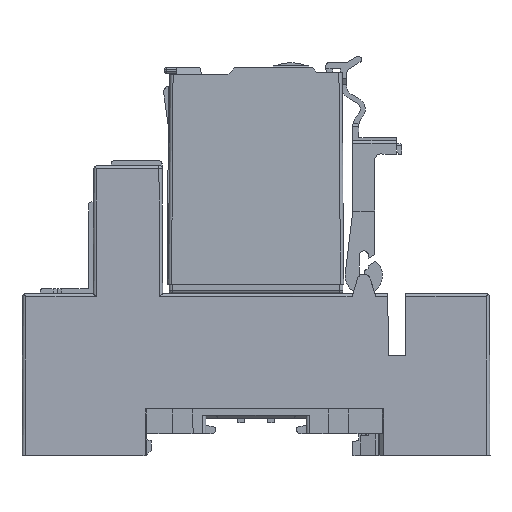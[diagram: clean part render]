
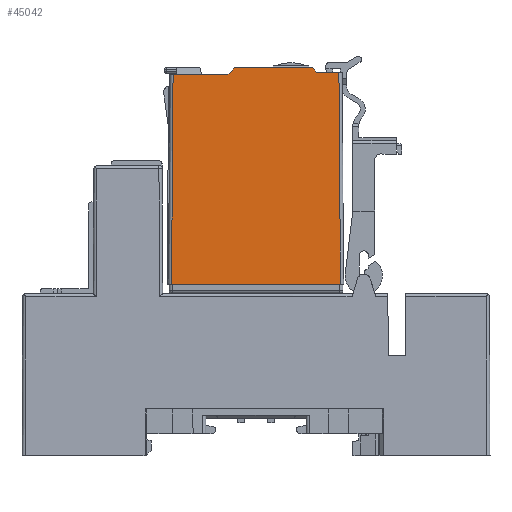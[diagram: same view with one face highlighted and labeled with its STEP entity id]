
A CAD part, left-side view. The second image highlights one B-rep face of the part: STEP entity #45042.
In plain terms, the highlighted planar face has unit normal (-1, 0, 0.007).
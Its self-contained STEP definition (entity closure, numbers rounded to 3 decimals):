
#444 = DIRECTION ( 'NONE',  ( 0., 1., 0. ) ) ;
#968 = VECTOR ( 'NONE', #444, 1000. ) ;
#1303 = ORIENTED_EDGE ( 'NONE', *, *, #16110, .T. ) ;
#2359 = EDGE_LOOP ( 'NONE', ( #26130, #40894, #40704, #43943, #18078, #1303, #25950, #41552 ) ) ;
#2570 = VECTOR ( 'NONE', #10376, 1000. ) ;
#4656 = VECTOR ( 'NONE', #33644, 1000. ) ;
#5589 = VERTEX_POINT ( 'NONE', #47958 ) ;
#6910 = CARTESIAN_POINT ( 'NONE',  ( 0.813, 51.083, 27.5 ) ) ;
#7927 = DIRECTION ( 'NONE',  ( -0.005, -0.707, -0.707 ) ) ;
#8134 = CARTESIAN_POINT ( 'NONE',  ( 0.813, 42.049, 27.5 ) ) ;
#8627 = CARTESIAN_POINT ( 'NONE',  ( 1.063, 27.826, 61.5 ) ) ;
#9187 = CARTESIAN_POINT ( 'NONE',  ( 1.129, 32.688, 70.455 ) ) ;
#9950 = VERTEX_POINT ( 'NONE', #34059 ) ;
#10376 = DIRECTION ( 'NONE',  ( 0., 1., 0. ) ) ;
#10391 = VECTOR ( 'NONE', #49886, 1000. ) ;
#13089 = EDGE_CURVE ( 'NONE', #30102, #41822, #32814, .T. ) ;
#13583 = LINE ( 'NONE', #48338, #4656 ) ;
#14163 = LINE ( 'NONE', #14671, #24958 ) ;
#14406 = DIRECTION ( 'NONE',  ( 0., -1., 0. ) ) ;
#14456 = CARTESIAN_POINT ( 'NONE',  ( 1.069, 51.333, 62.2 ) ) ;
#14671 = CARTESIAN_POINT ( 'NONE',  ( 1.063, 23.733, 61.5 ) ) ;
#15429 = VECTOR ( 'NONE', #7927, 1000. ) ;
#16110 = EDGE_CURVE ( 'NONE', #35254, #40374, #13583, .T. ) ;
#17487 = B_SPLINE_CURVE_WITH_KNOTS ( 'NONE', 3,
 ( #34581, #8134, #46458, #31041 ),
 .UNSPECIFIED., .F., .F.,
 ( 4, 4 ),
 ( 0.018, 0.982 ),
 .UNSPECIFIED. ) ;
#18078 = ORIENTED_EDGE ( 'NONE', *, *, #24268, .T. ) ;
#20403 = DIRECTION ( 'NONE',  ( 1., 0., -0.007 ) ) ;
#21332 = CARTESIAN_POINT ( 'NONE',  ( 1.061, 42.044, 61.1 ) ) ;
#22428 = CARTESIAN_POINT ( 'NONE',  ( 1.048, 25.779, 59.453 ) ) ;
#22504 = LINE ( 'NONE', #42549, #10391 ) ;
#22862 = CARTESIAN_POINT ( 'NONE',  ( 1.061, 50.836, 61.1 ) ) ;
#24199 = EDGE_CURVE ( 'NONE', #9950, #41822, #33513, .T. ) ;
#24268 = EDGE_CURVE ( 'NONE', #30102, #35254, #42116, .T. ) ;
#24522 = VERTEX_POINT ( 'NONE', #29363 ) ;
#24671 = PLANE ( 'NONE',  #43395 ) ;
#24917 = FACE_OUTER_BOUND ( 'NONE', #2359, .T. ) ;
#24958 = VECTOR ( 'NONE', #14406, 1000. ) ;
#25950 = ORIENTED_EDGE ( 'NONE', *, *, #28685, .T. ) ;
#26130 = ORIENTED_EDGE ( 'NONE', *, *, #43495, .F. ) ;
#28685 = EDGE_CURVE ( 'NONE', #40374, #5589, #17487, .T. ) ;
#28755 = DIRECTION ( 'NONE',  ( 0.005, -0.707, 0.707 ) ) ;
#29363 = CARTESIAN_POINT ( 'NONE',  ( 1.063, 24.233, 61.5 ) ) ;
#30102 = VERTEX_POINT ( 'NONE', #21332 ) ;
#31041 = CARTESIAN_POINT ( 'NONE',  ( 0.813, 23.983, 27.5 ) ) ;
#31604 = VERTEX_POINT ( 'NONE', #8627 ) ;
#32055 = EDGE_CURVE ( 'NONE', #5589, #24522, #22504, .T. ) ;
#32814 = LINE ( 'NONE', #9187, #42839 ) ;
#33513 = LINE ( 'NONE', #14456, #2570 ) ;
#33644 = DIRECTION ( 'NONE',  ( -0.007, 0.007, -1. ) ) ;
#34059 = CARTESIAN_POINT ( 'NONE',  ( 1.069, 28.526, 62.2 ) ) ;
#34581 = CARTESIAN_POINT ( 'NONE',  ( 0.813, 51.083, 27.5 ) ) ;
#35143 = LINE ( 'NONE', #22428, #15429 ) ;
#35254 = VERTEX_POINT ( 'NONE', #22862 ) ;
#38855 = CARTESIAN_POINT ( 'NONE',  ( 1.069, 40.944, 62.2 ) ) ;
#40374 = VERTEX_POINT ( 'NONE', #6910 ) ;
#40704 = ORIENTED_EDGE ( 'NONE', *, *, #24199, .T. ) ;
#40894 = ORIENTED_EDGE ( 'NONE', *, *, #48394, .F. ) ;
#41552 = ORIENTED_EDGE ( 'NONE', *, *, #32055, .T. ) ;
#41822 = VERTEX_POINT ( 'NONE', #38855 ) ;
#42116 = LINE ( 'NONE', #42379, #968 ) ;
#42379 = CARTESIAN_POINT ( 'NONE',  ( 1.061, 42.044, 61.1 ) ) ;
#42549 = CARTESIAN_POINT ( 'NONE',  ( 1.063, 24.233, 61.496 ) ) ;
#42839 = VECTOR ( 'NONE', #28755, 1000. ) ;
#43395 = AXIS2_PLACEMENT_3D ( 'NONE', #43456, #20403, #43947 ) ;
#43456 = CARTESIAN_POINT ( 'NONE',  ( 1.063, 23.733, 61.5 ) ) ;
#43495 = EDGE_CURVE ( 'NONE', #31604, #24522, #14163, .T. ) ;
#43943 = ORIENTED_EDGE ( 'NONE', *, *, #13089, .F. ) ;
#43947 = DIRECTION ( 'NONE',  ( -0.007, 0., -1. ) ) ;
#45042 = ADVANCED_FACE ( 'NONE', ( #24917 ), #24671, .F. ) ;
#46458 = CARTESIAN_POINT ( 'NONE',  ( 0.813, 33.016, 27.5 ) ) ;
#47958 = CARTESIAN_POINT ( 'NONE',  ( 0.813, 23.983, 27.5 ) ) ;
#48338 = CARTESIAN_POINT ( 'NONE',  ( 1.065, 50.831, 61.699 ) ) ;
#48394 = EDGE_CURVE ( 'NONE', #9950, #31604, #35143, .T. ) ;
#49886 = DIRECTION ( 'NONE',  ( 0.007, 0.007, 1. ) ) ;
